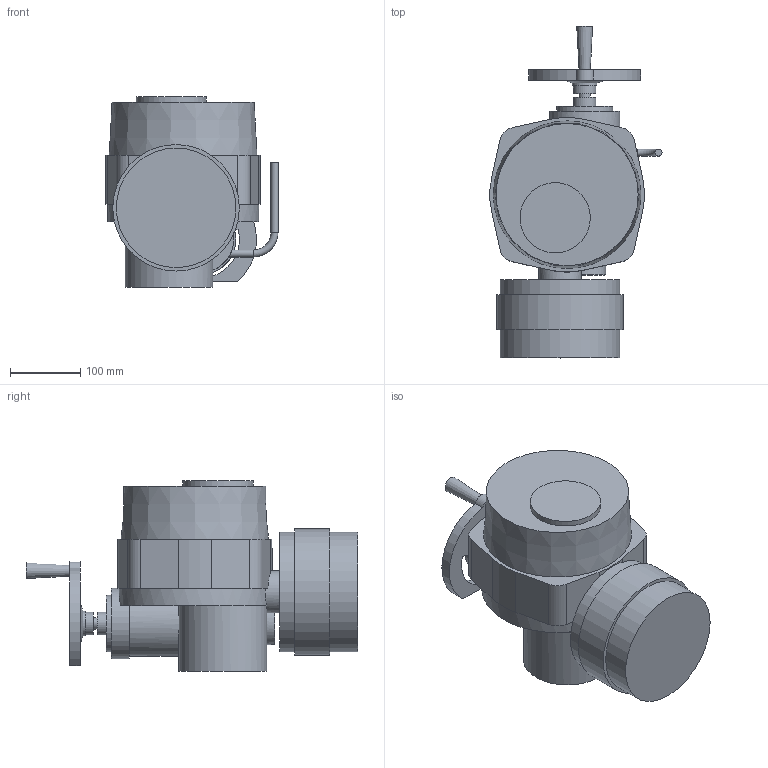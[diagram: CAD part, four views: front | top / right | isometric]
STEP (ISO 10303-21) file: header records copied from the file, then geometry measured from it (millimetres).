
FILE_DESCRIPTION(('STEP AP203'), '1');
FILE_NAME('Ýëåêòðîïðèâîä QT.A 020 ñ ïîçèöèîíåðîì', '', ('UNSPECIFIED'), ('UNSPECIFIED'), 'ASCON STEP Converter 1.6', 'ASCON Math Kernel', '');
FILE_SCHEMA(('CONFIG_CONTROL_DESIGN'));
Length unit declared in the file: millimetre
Bounding box: 244.71 x 472 x 271 mm (x, y, z)
Volume: 11254723.9 mm3; surface area: 435955.1 mm2
Topology: 1 solids, 1 shells, 98 faces, 218 edges, 144 vertices
Faces by surface type: plane 48, cylinder 46, cone 3, torus 1
Full cylindrical faces by diameter (mm): 6.7 x4, 8.5 x4, 10 x2, 16 x1, 20 x1, 32 x2, 35 x1, 60 x1, 80 x1, 100 x2, 125 x1, 170 x2, 180 x1
Entity records: 4096 total; most frequent: CARTESIAN_POINT 1150, DIRECTION 464, ORIENTED_EDGE 376, AXIS2_PLACEMENT_3D 193, EDGE_CURVE 188, EDGE_LOOP 152, VERTEX_POINT 142, FACE_BOUND 101
